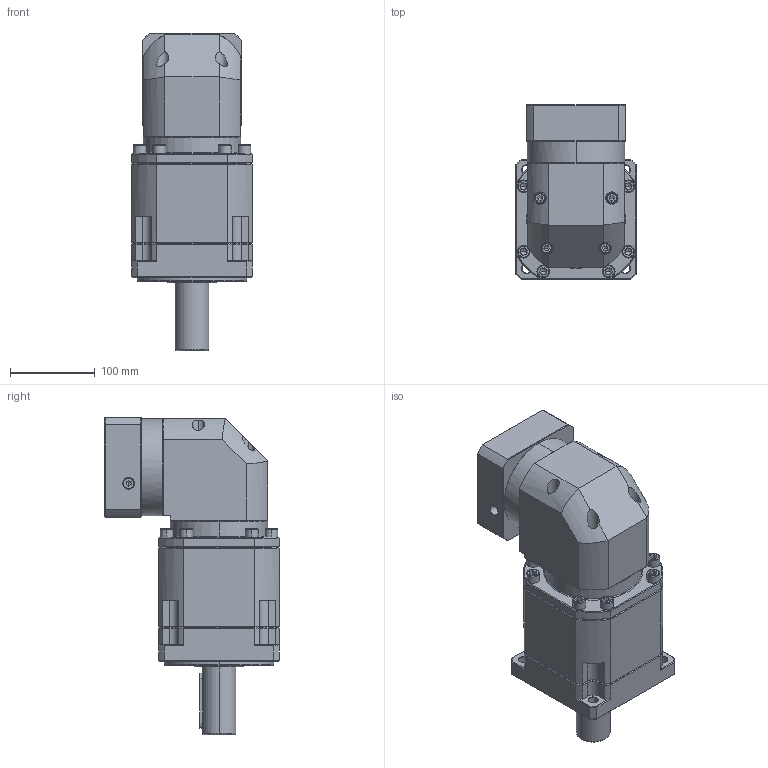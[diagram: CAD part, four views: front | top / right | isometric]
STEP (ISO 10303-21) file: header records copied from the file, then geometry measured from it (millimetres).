
FILE_DESCRIPTION (( 'STEP AP214' ), '1' );
FILE_NAME ('ZBR142A-D40-L3-P2-22-110-130-M8.step', '2023-09-02T08:10:52', ( '' ), ( '' ), 'SwSTEP 2.0', 'SolidWorks 2016', '' );
FILE_SCHEMA (( 'AUTOMOTIVE_DESIGN' ));
Length unit declared in the file: millimetre
Products named in the file (1): ZBR142A-D40-L3-P2-22-110-130-M8
Bounding box: 142 x 205.9 x 375.2 mm (x, y, z)
Volume: 5120542 mm3; surface area: 337360.7 mm2
Topology: 6 solids, 6 shells, 2590 faces, 6721 edges, 4257 vertices
Faces by surface type: plane 1232, cylinder 502, bspline 411, cone 399, torus 46
Entity records: 136922 total; most frequent: CARTESIAN_POINT 48553, ORIENTED_EDGE 13334, DIRECTION 10904, EDGE_CURVE 6667, VECTOR 4274, LINE 4274, VERTEX_POINT 4257, AXIS2_PLACEMENT_3D 3315
